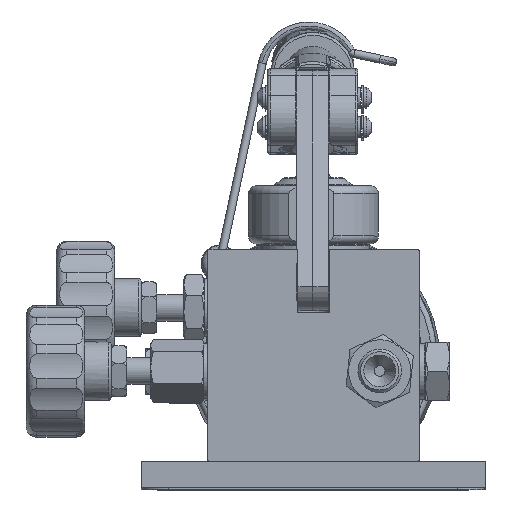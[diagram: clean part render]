
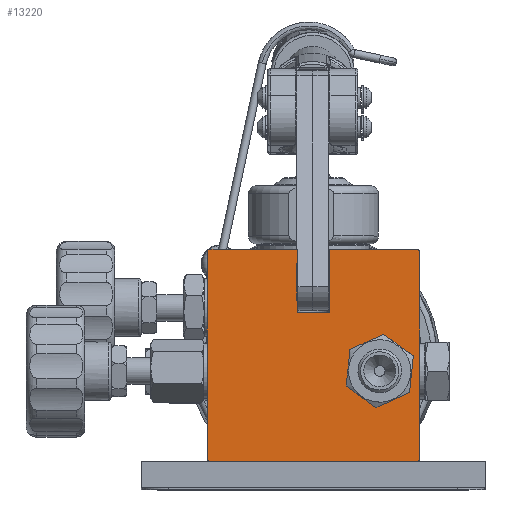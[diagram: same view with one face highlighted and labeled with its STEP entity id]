
A CAD part, top view. The second image highlights one B-rep face of the part: STEP entity #13220.
In plain terms, the highlighted planar face has unit normal (0, 0, 1).
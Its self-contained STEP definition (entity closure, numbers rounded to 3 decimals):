
#935=LINE('',#28389,#1688);
#937=LINE('',#28399,#1690);
#940=LINE('',#28424,#1693);
#941=LINE('',#28427,#1694);
#942=LINE('',#28433,#1695);
#943=LINE('',#28437,#1696);
#944=LINE('',#28439,#1697);
#945=LINE('',#28441,#1698);
#1688=VECTOR('',#18098,1000.);
#1690=VECTOR('',#18108,1000.);
#1693=VECTOR('',#18119,1000.);
#1694=VECTOR('',#18120,1000.);
#1695=VECTOR('',#18127,1000.);
#1696=VECTOR('',#18130,1000.);
#1697=VECTOR('',#18131,1000.);
#1698=VECTOR('',#18132,1000.);
#2589=PLANE('',#15041);
#5038=ORIENTED_EDGE('',*,*,#7690,.F.);
#5039=ORIENTED_EDGE('',*,*,#7691,.F.);
#5040=ORIENTED_EDGE('',*,*,#7692,.T.);
#5041=ORIENTED_EDGE('',*,*,#7693,.T.);
#5042=ORIENTED_EDGE('',*,*,#7679,.T.);
#5043=ORIENTED_EDGE('',*,*,#7694,.T.);
#5044=ORIENTED_EDGE('',*,*,#7684,.T.);
#5045=ORIENTED_EDGE('',*,*,#7695,.T.);
#5046=ORIENTED_EDGE('',*,*,#7696,.T.);
#5047=ORIENTED_EDGE('',*,*,#7697,.T.);
#5048=ORIENTED_EDGE('',*,*,#7698,.T.);
#5049=ORIENTED_EDGE('',*,*,#7699,.F.);
#5050=ORIENTED_EDGE('',*,*,#7700,.T.);
#7679=EDGE_CURVE('',#9460,#9459,#935,.T.);
#7684=EDGE_CURVE('',#9464,#9465,#937,.T.);
#7690=EDGE_CURVE('',#9470,#9470,#10407,.T.);
#7691=EDGE_CURVE('',#9471,#9472,#940,.T.);
#7692=EDGE_CURVE('',#9471,#9473,#941,.T.);
#7693=EDGE_CURVE('',#9473,#9460,#10408,.T.);
#7694=EDGE_CURVE('',#9459,#9464,#10409,.T.);
#7695=EDGE_CURVE('',#9465,#9474,#10410,.T.);
#7696=EDGE_CURVE('',#9474,#9475,#942,.T.);
#7697=EDGE_CURVE('',#9475,#9476,#10411,.T.);
#7698=EDGE_CURVE('',#9476,#9477,#943,.T.);
#7699=EDGE_CURVE('',#9478,#9477,#944,.T.);
#7700=EDGE_CURVE('',#9478,#9472,#945,.T.);
#9459=VERTEX_POINT('',#28388);
#9460=VERTEX_POINT('',#28390);
#9464=VERTEX_POINT('',#28400);
#9465=VERTEX_POINT('',#28401);
#9470=VERTEX_POINT('',#28423);
#9471=VERTEX_POINT('',#28425);
#9472=VERTEX_POINT('',#28426);
#9473=VERTEX_POINT('',#28428);
#9474=VERTEX_POINT('',#28432);
#9475=VERTEX_POINT('',#28434);
#9476=VERTEX_POINT('',#28436);
#9477=VERTEX_POINT('',#28438);
#9478=VERTEX_POINT('',#28440);
#10407=CIRCLE('',#15042,12.);
#10408=CIRCLE('',#15043,1.);
#10409=CIRCLE('',#15044,1.);
#10410=CIRCLE('',#15045,1.);
#10411=CIRCLE('',#15046,1.);
#11311=EDGE_LOOP('',(#5038));
#11312=EDGE_LOOP('',(#5039,#5040,#5041,#5042,#5043,#5044,#5045,#5046,#5047,
#5048,#5049,#5050));
#12238=FACE_BOUND('',#11311,.T.);
#12239=FACE_BOUND('',#11312,.T.);
#13220=ADVANCED_FACE('',(#12238,#12239),#2589,.T.);
#15041=AXIS2_PLACEMENT_3D('',#28421,#18115,#18116);
#15042=AXIS2_PLACEMENT_3D('',#28422,#18117,#18118);
#15043=AXIS2_PLACEMENT_3D('',#28429,#18121,#18122);
#15044=AXIS2_PLACEMENT_3D('',#28430,#18123,#18124);
#15045=AXIS2_PLACEMENT_3D('',#28431,#18125,#18126);
#15046=AXIS2_PLACEMENT_3D('',#28435,#18128,#18129);
#18098=DIRECTION('',(0.,-1.,0.));
#18108=DIRECTION('',(1.,0.,0.));
#18115=DIRECTION('',(0.,0.,1.));
#18116=DIRECTION('',(1.,0.,0.));
#18117=DIRECTION('',(0.,0.,1.));
#18118=DIRECTION('',(1.,0.,0.));
#18119=DIRECTION('',(0.,-1.,0.));
#18120=DIRECTION('',(-1.,0.,0.));
#18121=DIRECTION('',(0.,0.,1.));
#18122=DIRECTION('',(1.,0.,0.));
#18123=DIRECTION('',(0.,0.,1.));
#18124=DIRECTION('',(1.,0.,0.));
#18125=DIRECTION('',(0.,0.,1.));
#18126=DIRECTION('',(1.,0.,0.));
#18127=DIRECTION('',(0.,1.,0.));
#18128=DIRECTION('',(0.,0.,1.));
#18129=DIRECTION('',(1.,0.,0.));
#18130=DIRECTION('',(-1.,0.,0.));
#18131=DIRECTION('',(0.,1.,0.));
#18132=DIRECTION('',(-1.,0.,0.));
#28388=CARTESIAN_POINT('',(-40.,-39.,100.));
#28389=CARTESIAN_POINT('',(-40.,40.,100.));
#28390=CARTESIAN_POINT('',(-40.,39.,100.));
#28399=CARTESIAN_POINT('',(-40.,-40.,100.));
#28400=CARTESIAN_POINT('',(-39.,-40.,100.));
#28401=CARTESIAN_POINT('',(39.,-40.,100.));
#28421=CARTESIAN_POINT('',(-40.,-40.,100.));
#28422=CARTESIAN_POINT('',(25.,-6.,100.));
#28423=CARTESIAN_POINT('',(37.,-6.,100.));
#28424=CARTESIAN_POINT('',(-6.,-40.,100.));
#28425=CARTESIAN_POINT('',(-6.,40.,100.));
#28426=CARTESIAN_POINT('',(-6.,16.,100.));
#28427=CARTESIAN_POINT('',(-40.,40.,100.));
#28428=CARTESIAN_POINT('',(-39.,40.,100.));
#28429=CARTESIAN_POINT('',(-39.,39.,100.));
#28430=CARTESIAN_POINT('',(-39.,-39.,100.));
#28431=CARTESIAN_POINT('',(39.,-39.,100.));
#28432=CARTESIAN_POINT('',(40.,-39.,100.));
#28433=CARTESIAN_POINT('',(40.,40.,100.));
#28434=CARTESIAN_POINT('',(40.,39.,100.));
#28435=CARTESIAN_POINT('',(39.,39.,100.));
#28436=CARTESIAN_POINT('',(39.,40.,100.));
#28437=CARTESIAN_POINT('',(-40.,40.,100.));
#28438=CARTESIAN_POINT('',(6.1,40.,100.));
#28439=CARTESIAN_POINT('',(6.1,-40.,100.));
#28440=CARTESIAN_POINT('',(6.1,16.,100.));
#28441=CARTESIAN_POINT('',(-40.,16.,100.));
